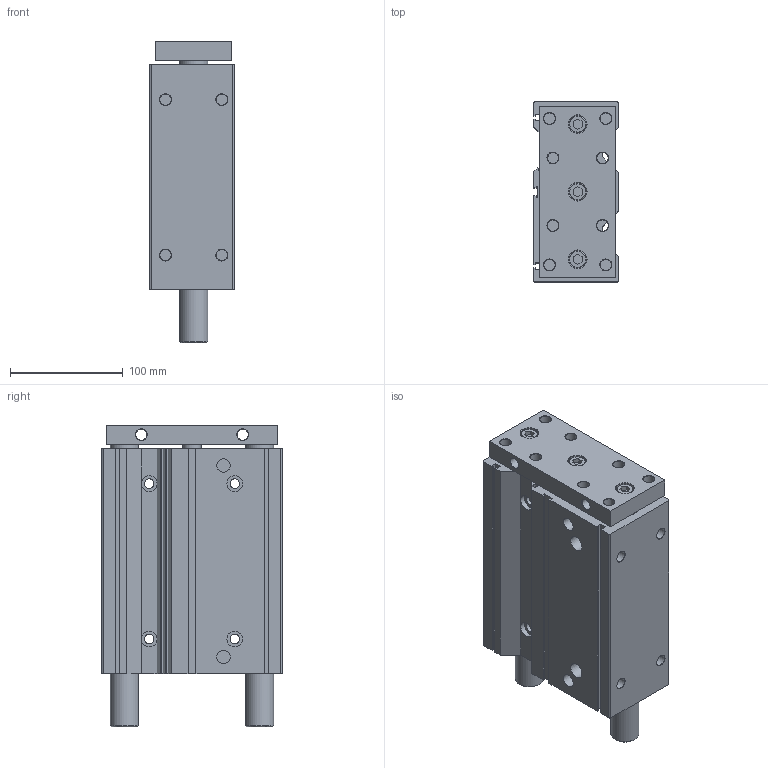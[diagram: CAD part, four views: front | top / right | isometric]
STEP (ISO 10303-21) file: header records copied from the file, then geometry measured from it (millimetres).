
FILE_DESCRIPTION((''),'2;1');
FILE_NAME('I:\3D電子目錄\氣缸\TB(U)\TB(U)63\TB(U)63\TB(U)63x150.stp','2007-08-06T09:29:42',('Administrator'),(''),'Autodesk Inventor 2008','Autodesk Inventor 2008','');
FILE_SCHEMA(('AUTOMOTIVE_DESIGN { 1 0 10303 214 1 1 1 1 }'));
Length unit declared in the file: millimetre
Products named in the file (1): TB(U)63X150
Bounding box: 75 x 160 x 268 mm (x, y, z)
Volume: 2318844.6 mm3; surface area: 191221.7 mm2
Topology: 1 solids, 1 shells, 206 faces, 462 edges, 294 vertices
Faces by surface type: plane 106, cylinder 52, cone 37, bspline 8, torus 3
Full cylindrical faces by diameter (mm): 8.5 x4, 10 x22, 12 x2, 14 x4, 15 x3, 16 x4, 25 x4, 32 x2, 60 x1
Entity records: 5380 total; most frequent: CARTESIAN_POINT 949, DIRECTION 924, ORIENTED_EDGE 740, EDGE_CURVE 370, EDGE_LOOP 364, AXIS2_PLACEMENT_3D 355, VERTEX_POINT 292, VECTOR 214
